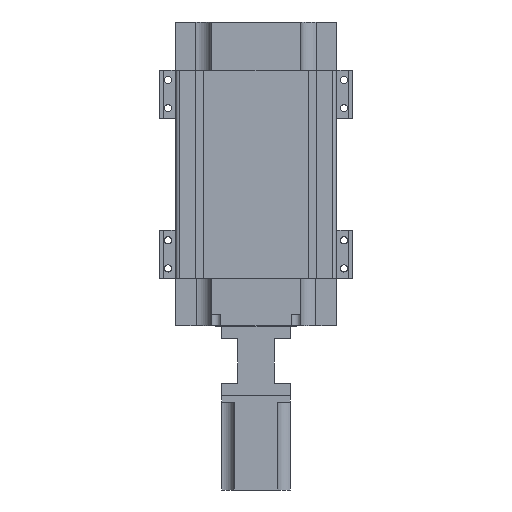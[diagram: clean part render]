
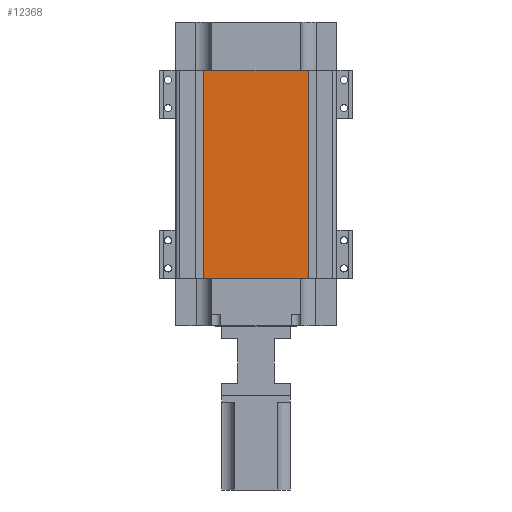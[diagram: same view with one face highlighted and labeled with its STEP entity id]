
A CAD part, front view. The second image highlights one B-rep face of the part: STEP entity #12368.
In plain terms, the highlighted planar face has unit normal (0, -1, 0).
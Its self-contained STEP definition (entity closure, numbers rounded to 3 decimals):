
#2147 = VERTEX_POINT ( 'NONE', #3811 ) ;
#2165 = EDGE_CURVE ( 'NONE', #2565, #2147, #3836, .T. ) ;
#2565 = VERTEX_POINT ( 'NONE', #4503 ) ;
#3811 = CARTESIAN_POINT ( 'NONE',  ( 65., -48.75, 260. ) ) ;
#3833 = DIRECTION ( 'NONE',  ( 1., 0., 0. ) ) ;
#3834 = VECTOR ( 'NONE', #3833, 1000. ) ;
#3835 = CARTESIAN_POINT ( 'NONE',  ( -65., -48.75, 260. ) ) ;
#3836 = LINE ( 'NONE', #3835, #3834 ) ;
#4503 = CARTESIAN_POINT ( 'NONE',  ( -65., -48.75, 260. ) ) ;
#7863 = CARTESIAN_POINT ( 'NONE',  ( 65., -48.75, 0. ) ) ;
#7867 = DIRECTION ( 'NONE',  ( 1., 0., 0. ) ) ;
#7868 = VECTOR ( 'NONE', #7867, 1000. ) ;
#7870 = CARTESIAN_POINT ( 'NONE',  ( -65., -48.75, 0. ) ) ;
#7871 = LINE ( 'NONE', #7870, #7868 ) ;
#7901 = CARTESIAN_POINT ( 'NONE',  ( -65., -48.75, 0. ) ) ;
#8739 = DIRECTION ( 'NONE',  ( -1., 0., 0. ) ) ;
#8740 = DIRECTION ( 'NONE',  ( 0., 1., 0. ) ) ;
#8747 = DIRECTION ( 'NONE',  ( 0., 0., -1. ) ) ;
#8748 = VECTOR ( 'NONE', #8747, 1000. ) ;
#8749 = CARTESIAN_POINT ( 'NONE',  ( -65., -48.75, 260. ) ) ;
#8750 = LINE ( 'NONE', #8749, #8748 ) ;
#8751 = PLANE ( 'NONE',  #8752 ) ;
#8752 = AXIS2_PLACEMENT_3D ( 'NONE', #8754, #8740, #8739 ) ;
#8753 = FACE_OUTER_BOUND ( 'NONE', #12366, .T. ) ;
#8754 = CARTESIAN_POINT ( 'NONE',  ( -65., -48.75, 260. ) ) ;
#8837 = DIRECTION ( 'NONE',  ( 0., 0., -1. ) ) ;
#8839 = VECTOR ( 'NONE', #8837, 1000. ) ;
#8845 = CARTESIAN_POINT ( 'NONE',  ( 65., -48.75, 260. ) ) ;
#8846 = LINE ( 'NONE', #8845, #8839 ) ;
#11856 = EDGE_CURVE ( 'NONE', #11874, #11867, #7871, .T. ) ;
#11867 = VERTEX_POINT ( 'NONE', #7863 ) ;
#11874 = VERTEX_POINT ( 'NONE', #7901 ) ;
#12236 = ORIENTED_EDGE ( 'NONE', *, *, #12422, .F. ) ;
#12364 = EDGE_CURVE ( 'NONE', #2565, #11874, #8750, .T. ) ;
#12366 = EDGE_LOOP ( 'NONE', ( #12373, #12236, #12424, #12428 ) ) ;
#12368 = ADVANCED_FACE ( 'NONE', ( #8753 ), #8751, .F. ) ;
#12373 = ORIENTED_EDGE ( 'NONE', *, *, #11856, .T. ) ;
#12422 = EDGE_CURVE ( 'NONE', #2147, #11867, #8846, .T. ) ;
#12424 = ORIENTED_EDGE ( 'NONE', *, *, #2165, .F. ) ;
#12428 = ORIENTED_EDGE ( 'NONE', *, *, #12364, .T. ) ;
